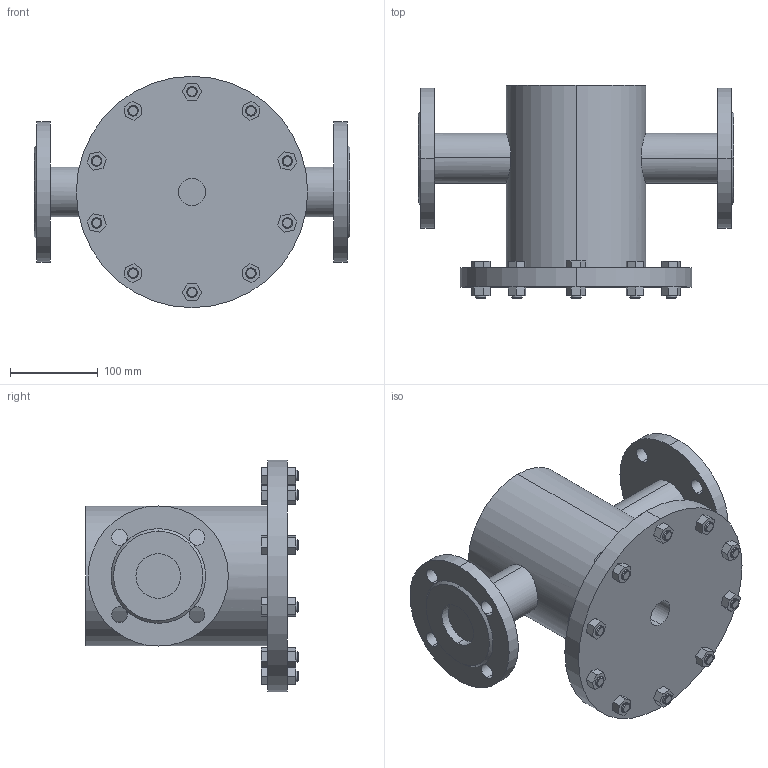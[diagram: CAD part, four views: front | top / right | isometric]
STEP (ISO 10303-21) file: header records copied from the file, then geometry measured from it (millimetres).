
FILE_DESCRIPTION (( 'STEP AP214' ), '1' );
FILE_NAME ('DN050 PN10.STEP', '2025-08-08T12:14:54', ( '' ), ( '' ), 'SwSTEP 2.0', 'SolidWorks 2023', '' );
FILE_SCHEMA (( 'AUTOMOTIVE_DESIGN' ));
Length unit declared in the file: millimetre
Products named in the file (1): DN050 PN10
Bounding box: 360 x 243 x 264 mm (x, y, z)
Volume: 6294912.2 mm3; surface area: 371574 mm2
Topology: 1 solids, 1 shells, 246 faces, 610 edges, 400 vertices
Faces by surface type: plane 164, cylinder 58, cone 24
Entity records: 8186 total; most frequent: CARTESIAN_POINT 1570, DIRECTION 1248, ORIENTED_EDGE 1220, EDGE_CURVE 610, LINE 442, VECTOR 442, AXIS2_PLACEMENT_3D 403, VERTEX_POINT 400
